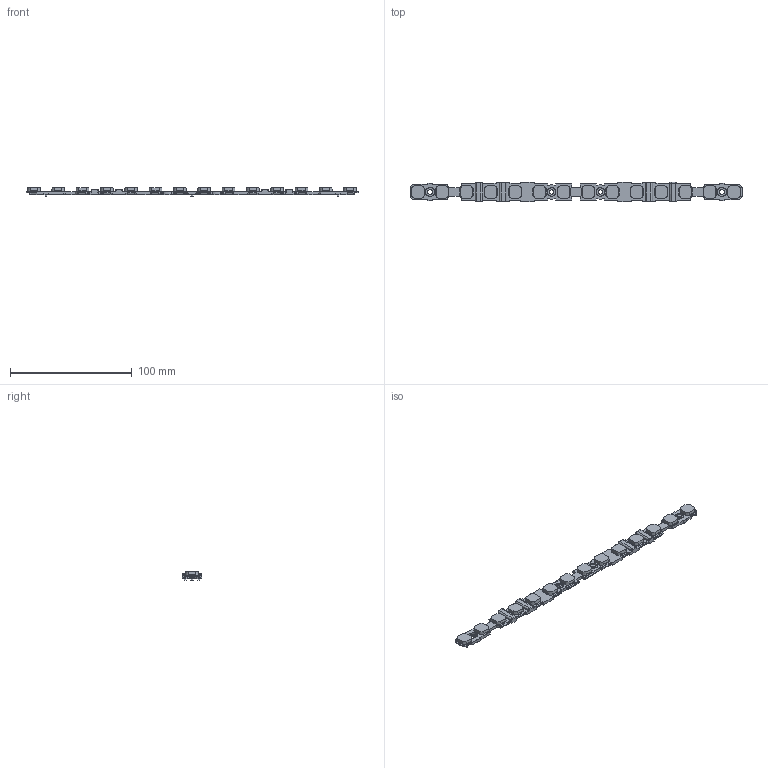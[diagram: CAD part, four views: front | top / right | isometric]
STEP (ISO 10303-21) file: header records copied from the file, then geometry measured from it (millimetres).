
FILE_DESCRIPTION(('Creo Elements/Direct Modeling STEP Export'),'2;1');
FILE_NAME('91653.stp','2025-11-24T16:04:09',(''),(''),'Creo Elements/Direct Modeling STEP processor for AP214 (Solid Model)','Creo Elements/Direct Modeling 20.8 17-May-2025 (C) Parametric Technology GmbH','');
FILE_SCHEMA(('AUTOMOTIVE_DESIGN { 1 0 10303 214 1 1 1 1 }'));
Length unit declared in the file: millimetre
Products named in the file (2): 91653
Assembly tree (1 placements, depth 2):
  91653
    91653
Bounding box: 273 x 16 x 6.72 mm (x, y, z)
Volume: 10961.1 mm3; surface area: 11814.4 mm2
Topology: 1 solids, 1 shells, 972 faces, 2620 edges, 1679 vertices
Faces by surface type: plane 494, cylinder 177, cone 172, bspline 59, revolution 56, torus 14
Entity records: 45659 total; most frequent: CARTESIAN_POINT 14597, ORIENTED_EDGE 5184, DIRECTION 4416, EDGE_CURVE 2592, VERTEX_POINT 1679, AXIS2_PLACEMENT_3D 1527, VECTOR 1306, LINE 1306
